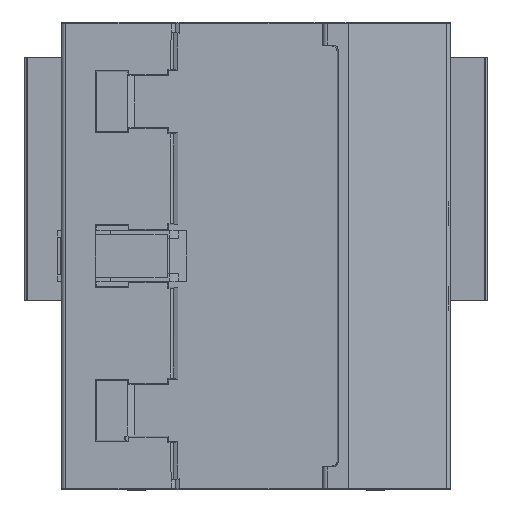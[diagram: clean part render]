
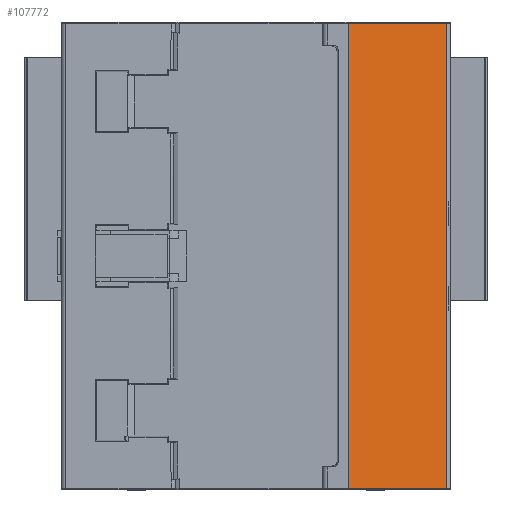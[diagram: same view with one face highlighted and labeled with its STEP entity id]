
A CAD part, front view. The second image highlights one B-rep face of the part: STEP entity #107772.
In plain terms, the highlighted planar face has unit normal (0.174, -0.985, 0).
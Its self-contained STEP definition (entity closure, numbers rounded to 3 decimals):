
#8130=FACE_OUTER_BOUND('',#13723,.T.);
#13723=EDGE_LOOP('',(#78263,#78264,#78265,#78266));
#21858=LINE('',#171914,#32848);
#21859=LINE('',#171917,#32849);
#21860=LINE('',#171919,#32850);
#21861=LINE('',#171920,#32851);
#32848=VECTOR('',#133356,10.);
#32849=VECTOR('',#133359,10.);
#32850=VECTOR('',#133360,10.);
#32851=VECTOR('',#133361,10.);
#44586=VERTEX_POINT('',#171910);
#44587=VERTEX_POINT('',#171912);
#44588=VERTEX_POINT('',#171916);
#44589=VERTEX_POINT('',#171918);
#57041=EDGE_CURVE('',#44586,#44587,#21858,.T.);
#57042=EDGE_CURVE('',#44588,#44587,#21859,.T.);
#57043=EDGE_CURVE('',#44588,#44589,#21860,.T.);
#57044=EDGE_CURVE('',#44586,#44589,#21861,.T.);
#78263=ORIENTED_EDGE('',*,*,#57042,.F.);
#78264=ORIENTED_EDGE('',*,*,#57043,.T.);
#78265=ORIENTED_EDGE('',*,*,#57044,.F.);
#78266=ORIENTED_EDGE('',*,*,#57041,.T.);
#97640=PLANE('',#115066);
#107772=ADVANCED_FACE('',(#8130),#97640,.T.);
#115066=AXIS2_PLACEMENT_3D('',#171915,#133357,#133358);
#133356=DIRECTION('',(0.,0.,-1.));
#133357=DIRECTION('center_axis',(0.174,-0.985,0.));
#133358=DIRECTION('ref_axis',(0.985,0.174,0.));
#133359=DIRECTION('',(-0.985,-0.174,0.));
#133360=DIRECTION('',(0.,0.,1.));
#133361=DIRECTION('',(0.985,0.174,0.));
#171910=CARTESIAN_POINT('',(21.275,-7.8,53.7));
#171912=CARTESIAN_POINT('',(21.275,-7.8,-53.7));
#171914=CARTESIAN_POINT('',(21.275,-7.8,26.7));
#171915=CARTESIAN_POINT('Origin',(21.969,-7.678,0.));
#171916=CARTESIAN_POINT('',(44.074,-3.78,-53.7));
#171917=CARTESIAN_POINT('',(23.049,-7.487,-53.7));
#171918=CARTESIAN_POINT('',(44.074,-3.78,53.7));
#171919=CARTESIAN_POINT('',(44.074,-3.78,53.4));
#171920=CARTESIAN_POINT('',(23.049,-7.487,53.7));
